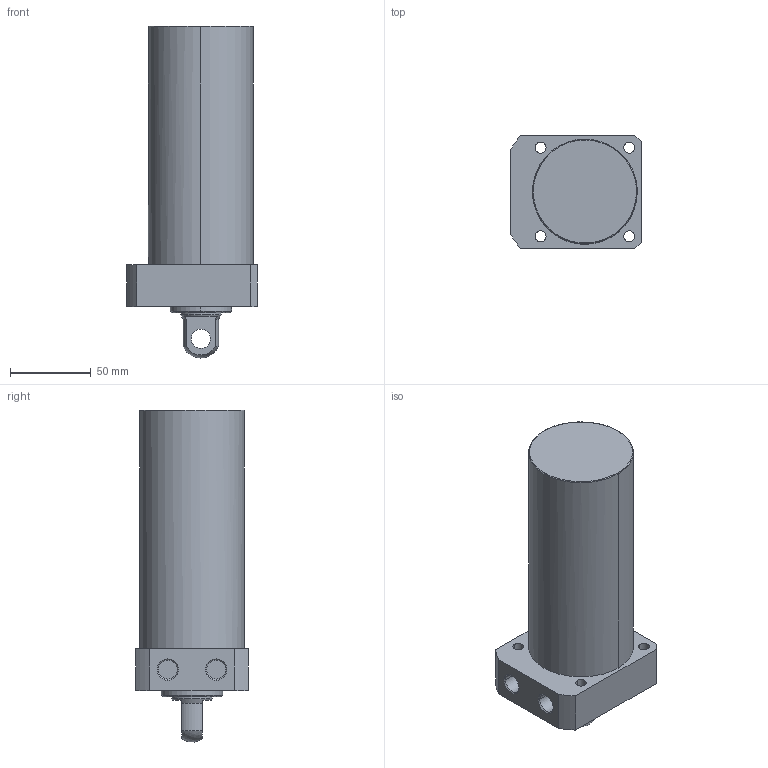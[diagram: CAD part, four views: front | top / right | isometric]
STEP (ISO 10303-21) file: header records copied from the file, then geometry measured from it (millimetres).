
FILE_DESCRIPTION((' '),'2;1');
FILE_NAME( 'TLLR-065CP-115.STEP.stp', '2025-10-24T16:35:04', (' '), ('--- Datakit www.datakit.com---'), ' Datakit CrossCadWare V2024.1 Dec 21 2023', 'Mastercam 2025', ' ');
FILE_SCHEMA(('AUTOMOTIVE_DESIGN { 1 0 10303 214 1 1 1 1 }'));
Length unit declared in the file: millimetre
Products named in the file (1): TLLR-065CP-115
Bounding box: 81 x 70 x 205.92 mm (x, y, z)
Volume: 638740.2 mm3; surface area: 54586.1 mm2
Topology: 1 solids, 1 shells, 57 faces, 164 edges, 116 vertices
Faces by surface type: cylinder 28, plane 18, cone 8, torus 2, sphere 1
Entity records: 2006 total; most frequent: DIRECTION 378, CARTESIAN_POINT 350, ORIENTED_EDGE 328, EDGE_CURVE 164, AXIS2_PLACEMENT_3D 160, VERTEX_POINT 116, CIRCLE 102, EDGE_LOOP 74
